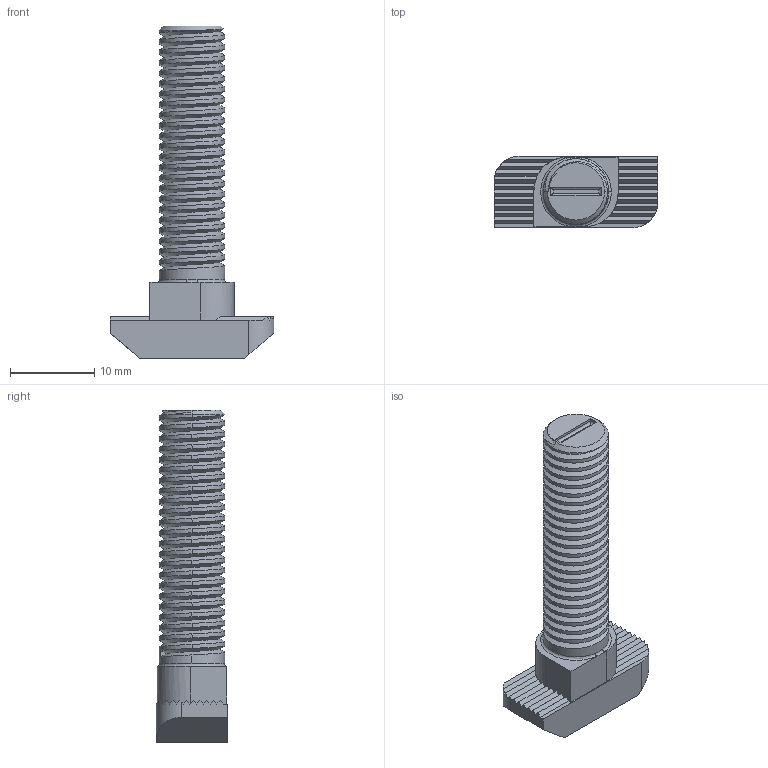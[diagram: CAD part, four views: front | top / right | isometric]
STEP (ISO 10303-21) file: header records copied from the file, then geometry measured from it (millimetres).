
FILE_DESCRIPTION (( 'STEP AP203' ), '1' );
FILE_NAME ('5032.STEP', '2016-01-21T10:28:57', ( '' ), ( '' ), 'SwSTEP 2.0', 'SolidWorks 2014', '' );
FILE_SCHEMA (( 'CONFIG_CONTROL_DESIGN' ));
Length unit declared in the file: millimetre
Products named in the file (1): 5032
Bounding box: 19.5 x 8.5 x 39.5 mm (x, y, z)
Volume: 2326.6 mm3; surface area: 1810.6 mm2
Topology: 1 solids, 1 shells, 126 faces, 356 edges, 233 vertices
Faces by surface type: plane 61, cylinder 55, bspline 4, torus 3, cone 3
Entity records: 6577 total; most frequent: CARTESIAN_POINT 3659, ORIENTED_EDGE 712, DIRECTION 478, EDGE_CURVE 356, VERTEX_POINT 233, VECTOR 192, LINE 192, AXIS2_PLACEMENT_3D 143
